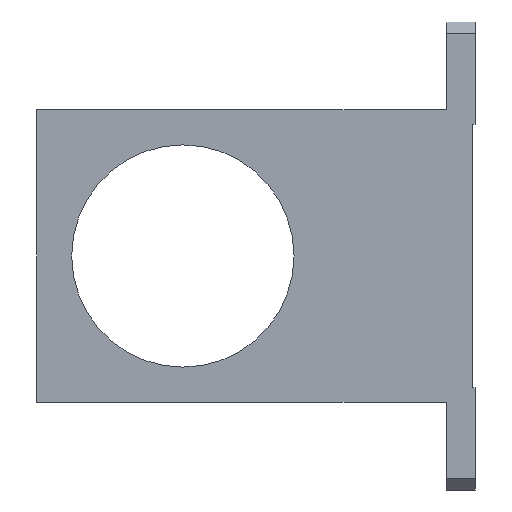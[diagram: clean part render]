
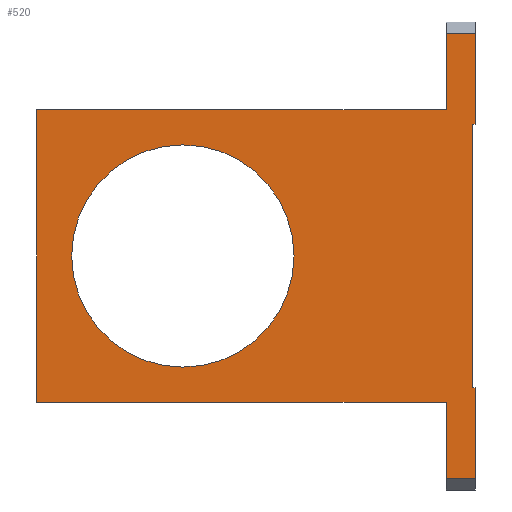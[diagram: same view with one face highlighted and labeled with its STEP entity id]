
A CAD part, front view. The second image highlights one B-rep face of the part: STEP entity #520.
In plain terms, the highlighted planar face has unit normal (0, -1, 0).
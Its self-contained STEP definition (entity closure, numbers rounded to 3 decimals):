
#22=FACE_BOUND('',#82,.T.);
#36=CIRCLE('',#553,19.);
#51=FACE_OUTER_BOUND('',#81,.T.);
#81=EDGE_LOOP('',(#360,#361,#362,#363,#364,#365,#366,#367,#368,#369,#370,
#371));
#82=EDGE_LOOP('',(#372));
#127=LINE('',#750,#183);
#128=LINE('',#753,#184);
#129=LINE('',#755,#185);
#130=LINE('',#757,#186);
#131=LINE('',#759,#187);
#132=LINE('',#761,#188);
#133=LINE('',#763,#189);
#134=LINE('',#765,#190);
#135=LINE('',#767,#191);
#136=LINE('',#769,#192);
#137=LINE('',#771,#193);
#138=LINE('',#772,#194);
#183=VECTOR('',#602,5.);
#184=VECTOR('',#605,15.5);
#185=VECTOR('',#606,0.5);
#186=VECTOR('',#607,45.);
#187=VECTOR('',#608,0.5);
#188=VECTOR('',#609,15.5);
#189=VECTOR('',#610,5.);
#190=VECTOR('',#611,13.);
#191=VECTOR('',#612,70.);
#192=VECTOR('',#613,50.);
#193=VECTOR('',#614,70.);
#194=VECTOR('',#615,13.);
#236=VERTEX_POINT('',#743);
#239=VERTEX_POINT('',#748);
#240=VERTEX_POINT('',#752);
#241=VERTEX_POINT('',#754);
#242=VERTEX_POINT('',#756);
#243=VERTEX_POINT('',#758);
#244=VERTEX_POINT('',#760);
#245=VERTEX_POINT('',#762);
#246=VERTEX_POINT('',#764);
#247=VERTEX_POINT('',#766);
#248=VERTEX_POINT('',#768);
#249=VERTEX_POINT('',#770);
#250=VERTEX_POINT('',#773);
#289=EDGE_CURVE('',#239,#236,#127,.T.);
#290=EDGE_CURVE('',#240,#239,#128,.T.);
#291=EDGE_CURVE('',#240,#241,#129,.T.);
#292=EDGE_CURVE('',#241,#242,#130,.T.);
#293=EDGE_CURVE('',#242,#243,#131,.T.);
#294=EDGE_CURVE('',#244,#243,#132,.T.);
#295=EDGE_CURVE('',#245,#244,#133,.T.);
#296=EDGE_CURVE('',#246,#245,#134,.T.);
#297=EDGE_CURVE('',#246,#247,#135,.T.);
#298=EDGE_CURVE('',#247,#248,#136,.T.);
#299=EDGE_CURVE('',#248,#249,#137,.T.);
#300=EDGE_CURVE('',#249,#236,#138,.T.);
#301=EDGE_CURVE('',#250,#250,#36,.T.);
#360=ORIENTED_EDGE('',*,*,#289,.F.);
#361=ORIENTED_EDGE('',*,*,#290,.F.);
#362=ORIENTED_EDGE('',*,*,#291,.T.);
#363=ORIENTED_EDGE('',*,*,#292,.T.);
#364=ORIENTED_EDGE('',*,*,#293,.T.);
#365=ORIENTED_EDGE('',*,*,#294,.F.);
#366=ORIENTED_EDGE('',*,*,#295,.F.);
#367=ORIENTED_EDGE('',*,*,#296,.F.);
#368=ORIENTED_EDGE('',*,*,#297,.T.);
#369=ORIENTED_EDGE('',*,*,#298,.T.);
#370=ORIENTED_EDGE('',*,*,#299,.T.);
#371=ORIENTED_EDGE('',*,*,#300,.T.);
#372=ORIENTED_EDGE('',*,*,#301,.T.);
#497=PLANE('',#552);
#520=ADVANCED_FACE('',(#51,#22),#497,.T.);
#552=AXIS2_PLACEMENT_3D('',#751,#603,#604);
#553=AXIS2_PLACEMENT_3D('',#774,#616,#617);
#602=DIRECTION('',(-1.,0.,0.));
#603=DIRECTION('center_axis',(0.,-1.,0.));
#604=DIRECTION('ref_axis',(0.,0.,-1.));
#605=DIRECTION('',(0.,0.,-1.));
#606=DIRECTION('',(-1.,0.,0.));
#607=DIRECTION('',(0.,0.,1.));
#608=DIRECTION('',(1.,0.,0.));
#609=DIRECTION('',(0.,0.,-1.));
#610=DIRECTION('',(1.,0.,0.));
#611=DIRECTION('',(0.,0.,1.));
#612=DIRECTION('',(-1.,0.,0.));
#613=DIRECTION('',(0.,0.,-1.));
#614=DIRECTION('',(1.,0.,0.));
#615=DIRECTION('',(0.,0.,-1.));
#616=DIRECTION('center_axis',(0.,1.,0.));
#617=DIRECTION('ref_axis',(-1.,0.,0.));
#743=CARTESIAN_POINT('',(-5.,-10.,-38.));
#748=CARTESIAN_POINT('',(0.,-10.,-38.));
#750=CARTESIAN_POINT('',(-15.642,-10.,-38.));
#751=CARTESIAN_POINT('Origin',(-28.785,-10.,8.715));
#752=CARTESIAN_POINT('',(0.,-10.,-22.5));
#753=CARTESIAN_POINT('',(0.,-10.,-25.));
#754=CARTESIAN_POINT('',(-0.5,-10.,-22.5));
#755=CARTESIAN_POINT('',(-14.392,-10.,-22.5));
#756=CARTESIAN_POINT('',(-0.5,-10.,22.5));
#757=CARTESIAN_POINT('',(-0.5,-10.,4.358));
#758=CARTESIAN_POINT('',(0.,-10.,22.5));
#759=CARTESIAN_POINT('',(-14.392,-10.,22.5));
#760=CARTESIAN_POINT('',(0.,-10.,38.));
#761=CARTESIAN_POINT('',(0.,-10.,-25.));
#762=CARTESIAN_POINT('',(-5.,-10.,38.));
#763=CARTESIAN_POINT('',(-15.642,-10.,38.));
#764=CARTESIAN_POINT('',(-5.,-10.,25.));
#765=CARTESIAN_POINT('',(-5.,-10.,25.));
#766=CARTESIAN_POINT('',(-75.,-10.,25.));
#767=CARTESIAN_POINT('',(-75.,-10.,25.));
#768=CARTESIAN_POINT('',(-75.,-10.,-25.));
#769=CARTESIAN_POINT('',(-75.,-10.,-25.));
#770=CARTESIAN_POINT('',(-5.,-10.,-25.));
#771=CARTESIAN_POINT('',(0.,-10.,-25.));
#772=CARTESIAN_POINT('',(-5.,-10.,-25.));
#773=CARTESIAN_POINT('',(-31.,-10.,0.));
#774=CARTESIAN_POINT('Origin',(-50.,-10.,0.));
